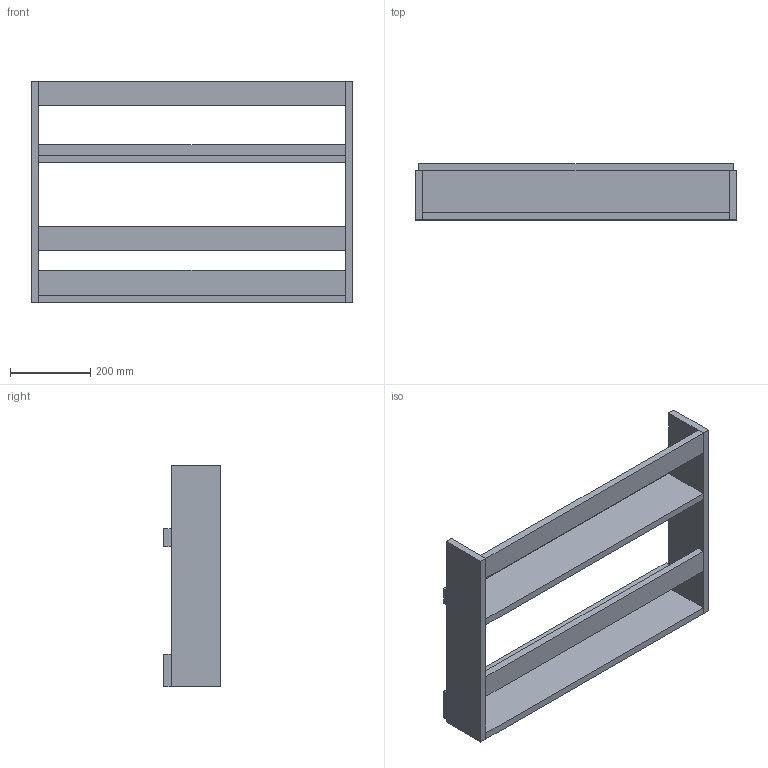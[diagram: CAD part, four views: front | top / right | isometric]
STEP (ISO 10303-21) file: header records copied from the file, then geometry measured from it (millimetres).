
FILE_DESCRIPTION(('Open CASCADE Model'),'2;1');
FILE_NAME('Open CASCADE Shape Model','2026-10-04T14:58:11',('Author'),( 'Open CASCADE'),'Open CASCADE STEP processor 7.8','Open CASCADE 7.8' ,'Unknown');
FILE_SCHEMA(('AUTOMOTIVE_DESIGN { 1 0 10303 214 1 1 1 1 }'));
Length unit declared in the file: millimetre
Products named in the file (9): Etagere_proposition_1_debord_18mm_profondeur_totale_140mm; Montant_gauche_550x122x18; Montant_droit_550x122x18; Tablette_basse_764x122x18; Tablette_epices_764x122x18; Bandeau_bas_782x80x18; Bandeau_epices_782x45x18; Traverse_arriere_basse_764x60x18; Traverse_arriere_haute_764x60x18
Assembly tree (8 placements, depth 2):
  Etagere_proposition_1_debord_18mm_profondeur_totale_140mm
    Montant_gauche_550x122x18
    Montant_droit_550x122x18
    Tablette_basse_764x122x18
    Tablette_epices_764x122x18
    Bandeau_bas_782x80x18
    Bandeau_epices_782x45x18
    Traverse_arriere_basse_764x60x18
    Traverse_arriere_haute_764x60x18
Bounding box: 800 x 140 x 550 mm (x, y, z)
Volume: 9180828 mm3; surface area: 1252400 mm2
Topology: 8 solids, 8 shells, 48 faces, 96 edges, 64 vertices
Faces by surface type: plane 48
Entity records: 2673 total; most frequent: CARTESIAN_POINT 409, DIRECTION 402, LINE 288, VECTOR 288, ORIENTED_EDGE 192, PCURVE 192, DEFINITIONAL_REPRESENTATION 192, EDGE_CURVE 96
